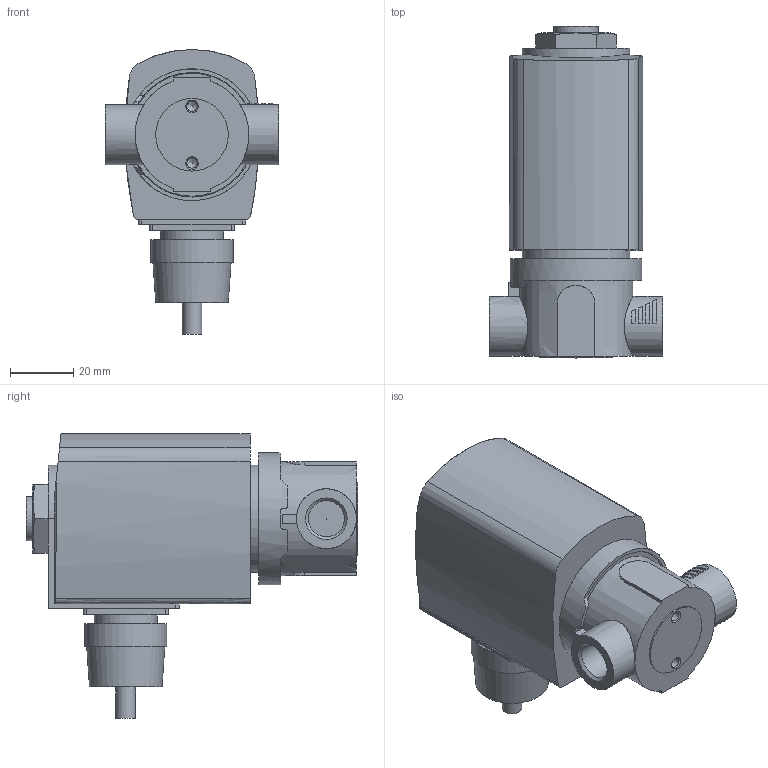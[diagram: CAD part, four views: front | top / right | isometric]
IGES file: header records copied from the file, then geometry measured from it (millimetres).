
Start section: Data from Parasolid IGES Translator 26.0.171, Copyright(c) 2006 Siemens PLM Software. All Rights Reserved.
Global section: file name: 6027-A-3-FKM___FKM-VA-G_1_4-42-024___UC.igs; native system: By Siemens PLM Incorporated; preprocessor: XPlus GENERIC/IGES 26.0.171; author: Noname; organization: Noname; date: 20240320.125652; units: millimetre
Bounding box: 55 x 105.2 x 90.3 mm (x, y, z)
Surface area: 28864.8 mm2 (no closed solid volume)
Topology: 0 solids, 0 shells, 129 faces, 620 edges, 590 vertices
Faces by surface type: extrusion 71, revolution 58
